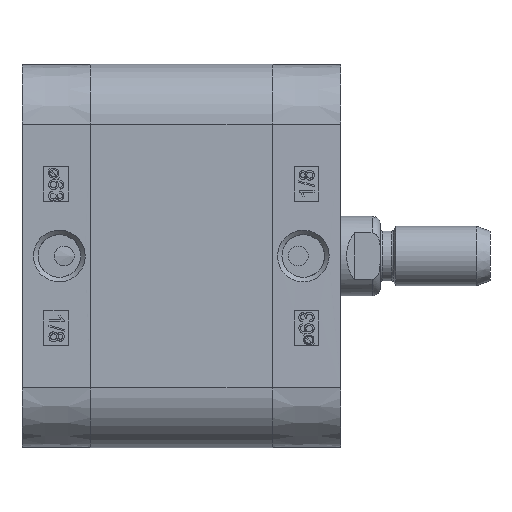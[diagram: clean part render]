
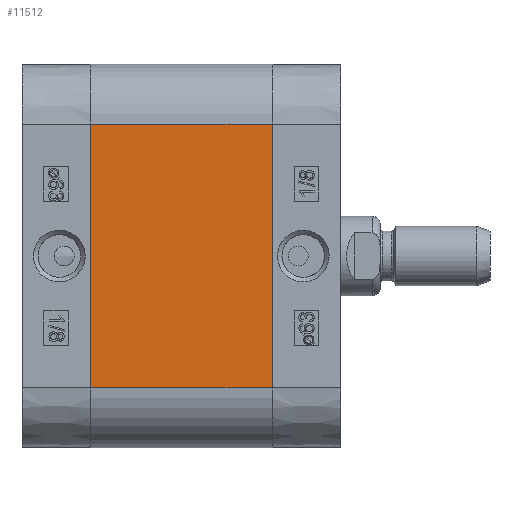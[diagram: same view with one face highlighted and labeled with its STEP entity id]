
A CAD part, left-side view. The second image highlights one B-rep face of the part: STEP entity #11512.
In plain terms, the highlighted planar face has unit normal (-1, 0, 0).
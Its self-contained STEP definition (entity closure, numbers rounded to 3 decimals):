
#5842=CARTESIAN_POINT('',(-38.5,-36.5,26.5));
#5843=VERTEX_POINT('',#5842);
#5850=CARTESIAN_POINT('',(-38.5,-36.5,-26.5));
#5851=VERTEX_POINT('',#5850);
#5852=CARTESIAN_POINT('',(-38.5,-36.5,-26.5));
#5853=DIRECTION('',(0.0,0.0,1.0));
#5854=VECTOR('',#5853,53.0);
#5855=LINE('',#5852,#5854);
#5856=EDGE_CURVE('',#5851,#5843,#5855,.T.);
#11470=CARTESIAN_POINT('',(-38.5,0.0,-26.5));
#11471=VERTEX_POINT('',#11470);
#11472=CARTESIAN_POINT('',(-38.5,0.0,-26.5));
#11473=DIRECTION('',(0.0,-1.0,0.0));
#11474=VECTOR('',#11473,36.5);
#11475=LINE('',#11472,#11474);
#11476=EDGE_CURVE('',#11471,#5851,#11475,.T.);
#11489=CARTESIAN_POINT('',(-38.5,0.0,-26.5));
#11490=DIRECTION('',(-1.0,0.0,0.0));
#11491=DIRECTION('',(0.0,0.0,1.0));
#11492=AXIS2_PLACEMENT_3D('',#11489,#11490,#11491);
#11493=PLANE('',#11492);
#11494=ORIENTED_EDGE('',*,*,#5856,.T.);
#11495=CARTESIAN_POINT('',(-38.5,0.0,26.5));
#11496=VERTEX_POINT('',#11495);
#11497=CARTESIAN_POINT('',(-38.5,0.0,26.5));
#11498=DIRECTION('',(0.0,-1.0,0.0));
#11499=VECTOR('',#11498,36.5);
#11500=LINE('',#11497,#11499);
#11501=EDGE_CURVE('',#11496,#5843,#11500,.T.);
#11502=ORIENTED_EDGE('',*,*,#11501,.F.);
#11503=CARTESIAN_POINT('',(-38.5,0.0,-26.5));
#11504=DIRECTION('',(0.0,0.0,1.0));
#11505=VECTOR('',#11504,53.0);
#11506=LINE('',#11503,#11505);
#11507=EDGE_CURVE('',#11471,#11496,#11506,.T.);
#11508=ORIENTED_EDGE('',*,*,#11507,.F.);
#11509=ORIENTED_EDGE('',*,*,#11476,.T.);
#11510=EDGE_LOOP('',(#11494,#11502,#11508,#11509));
#11511=FACE_OUTER_BOUND('',#11510,.T.);
#11512=ADVANCED_FACE('',(#11511),#11493,.T.);
